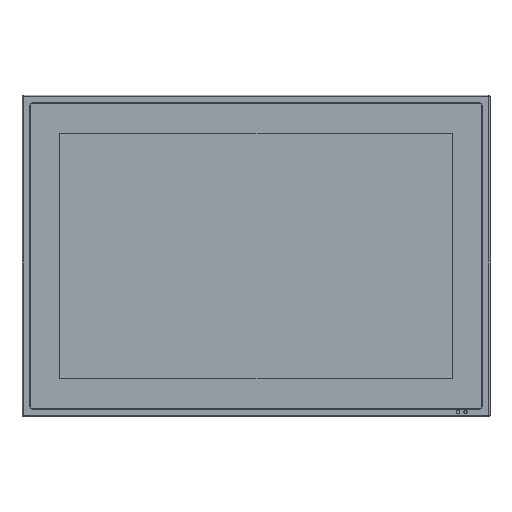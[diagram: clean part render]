
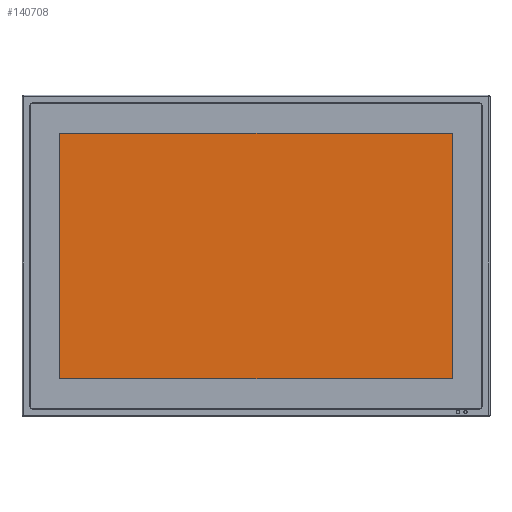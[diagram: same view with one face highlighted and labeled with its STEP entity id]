
A CAD part, top view. The second image highlights one B-rep face of the part: STEP entity #140708.
In plain terms, the highlighted planar face has unit normal (0, 0, 1).
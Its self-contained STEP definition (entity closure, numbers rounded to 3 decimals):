
#7836 = EDGE_CURVE ( 'NONE', #296165, #82798, #290584, .T. ) ;
#18705 = DIRECTION ( 'NONE',  ( 0., 1., 0. ) ) ;
#34214 = CARTESIAN_POINT ( 'NONE',  ( 131.16, 82.2, 0. ) ) ;
#37852 = EDGE_LOOP ( 'NONE', ( #90410, #76994, #264577, #200712 ) ) ;
#56146 = EDGE_CURVE ( 'NONE', #221124, #296165, #275670, .T. ) ;
#69146 = DIRECTION ( 'NONE',  ( 1., 0., 0. ) ) ;
#75429 = EDGE_CURVE ( 'NONE', #82798, #118055, #116202, .T. ) ;
#76178 = LINE ( 'NONE', #270202, #198161 ) ;
#76994 = ORIENTED_EDGE ( 'NONE', *, *, #100652, .T. ) ;
#82798 = VERTEX_POINT ( 'NONE', #206784 ) ;
#89362 = CARTESIAN_POINT ( 'NONE',  ( 131.16, 82.2, 0. ) ) ;
#90410 = ORIENTED_EDGE ( 'NONE', *, *, #75429, .T. ) ;
#100652 = EDGE_CURVE ( 'NONE', #118055, #221124, #76178, .T. ) ;
#112328 = CARTESIAN_POINT ( 'NONE',  ( -131.16, 82.2, 0. ) ) ;
#113438 = PLANE ( 'NONE',  #145887 ) ;
#116202 = LINE ( 'NONE', #121169, #191460 ) ;
#118055 = VERTEX_POINT ( 'NONE', #184039 ) ;
#121169 = CARTESIAN_POINT ( 'NONE',  ( -131.16, -82.2, 0. ) ) ;
#124303 = CARTESIAN_POINT ( 'NONE',  ( -131.16, 82.2, 0. ) ) ;
#136744 = VECTOR ( 'NONE', #238436, 1000. ) ;
#137410 = CARTESIAN_POINT ( 'NONE',  ( 0., 0., 0. ) ) ;
#140708 = ADVANCED_FACE ( 'NONE', ( #252942 ), #113438, .T. ) ;
#145499 = DIRECTION ( 'NONE',  ( -1., 0., 0. ) ) ;
#145887 = AXIS2_PLACEMENT_3D ( 'NONE', #137410, #183503, #69146 ) ;
#168210 = DIRECTION ( 'NONE',  ( 1., 0., 0. ) ) ;
#183503 = DIRECTION ( 'NONE',  ( 0., 0., 1. ) ) ;
#184039 = CARTESIAN_POINT ( 'NONE',  ( 131.16, -82.2, 0. ) ) ;
#191460 = VECTOR ( 'NONE', #168210, 1000. ) ;
#198161 = VECTOR ( 'NONE', #18705, 1000. ) ;
#200712 = ORIENTED_EDGE ( 'NONE', *, *, #7836, .T. ) ;
#206784 = CARTESIAN_POINT ( 'NONE',  ( -131.16, -82.2, 0. ) ) ;
#221124 = VERTEX_POINT ( 'NONE', #89362 ) ;
#238436 = DIRECTION ( 'NONE',  ( 0., -1., 0. ) ) ;
#252942 = FACE_OUTER_BOUND ( 'NONE', #37852, .T. ) ;
#264577 = ORIENTED_EDGE ( 'NONE', *, *, #56146, .T. ) ;
#270202 = CARTESIAN_POINT ( 'NONE',  ( 131.16, -82.2, 0. ) ) ;
#275670 = LINE ( 'NONE', #34214, #279344 ) ;
#279344 = VECTOR ( 'NONE', #145499, 1000. ) ;
#290584 = LINE ( 'NONE', #124303, #136744 ) ;
#296165 = VERTEX_POINT ( 'NONE', #112328 ) ;
